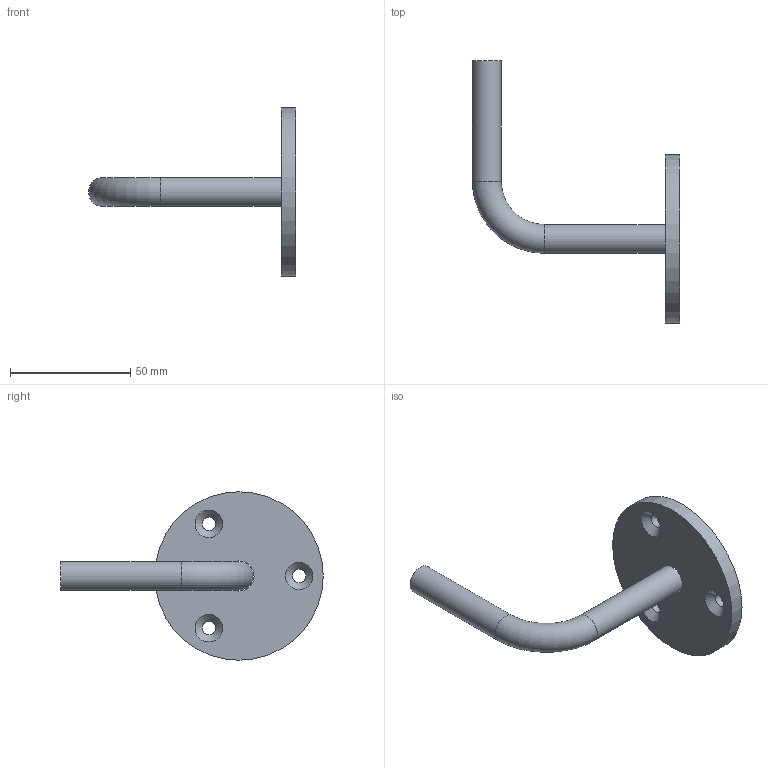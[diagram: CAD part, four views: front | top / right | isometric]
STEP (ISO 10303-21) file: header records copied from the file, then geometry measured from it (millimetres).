
FILE_DESCRIPTION(/* description */ (''),/* implementation_level */ '2;1');
FILE_NAME(/* name */ 'Pos113-Leuningdrager inkoop-S235JRG2-18st',/* time_stamp */ '2024-08-06T13:37:44+02:00',/* author */ (''),/* organization */ (''),/* preprocessor_version */ 'ST-DEVELOPER v16.5',/* originating_system */ 'HiCAD 2024 2901.2 Build 361',/* authorisation */ '');
FILE_SCHEMA (('AUTOMOTIVE_DESIGN { 1 0 10303 214 1 1 1 1 }'));
Length unit declared in the file: millimetre
Products named in the file (2): Pos113-Leuningdrager inkoop-S235JRG2-18st
Assembly tree (1 placements, depth 2):
  Pos113-Leuningdrager inkoop-S235JRG2-18st
    (unnamed)
Bounding box: 86 x 109 x 70 mm (x, y, z)
Volume: 37185.7 mm3; surface area: 14536.5 mm2
Topology: 2 solids, 2 shells, 15 faces, 32 edges, 24 vertices
Faces by surface type: cylinder 7, plane 4, cone 3, torus 1
Full cylindrical faces by diameter (mm): 5.5 x3, 12 x2, 12.5 x1, 70 x1
Entity records: 562 total; most frequent: DIRECTION 68, CARTESIAN_POINT 54, PRESENTATION_STYLE_ASSIGNMENT 36, COLOUR_RGB 35, DRAUGHTING_PRE_DEFINED_CURVE_FONT 34, CURVE_STYLE 34, OVER_RIDING_STYLED_ITEM 34, ORIENTED_EDGE 34
